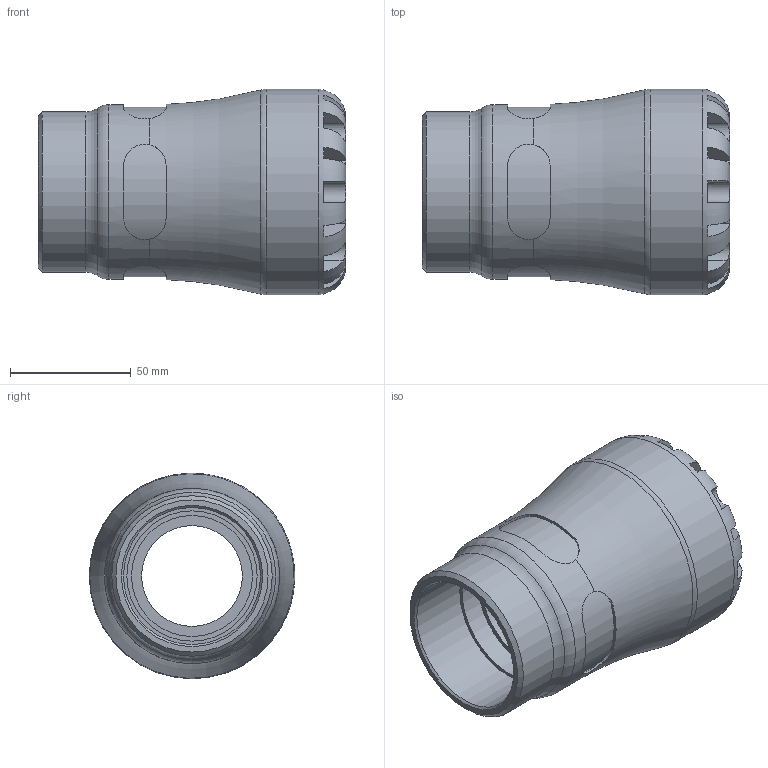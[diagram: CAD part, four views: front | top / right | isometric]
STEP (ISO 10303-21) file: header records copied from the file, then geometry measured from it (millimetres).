
FILE_DESCRIPTION(/* description */ ('PLASSON FEMALE INTEGRAL BRASS THREAD 50X2" SERIES 1'),/* implementation_level */ '2;1');
FILE_NAME(/* name */ 'C:\Dropbox\KIMPROJECTS-Inventor\99-16-3568-Processing\1073\107300050020_197300050020.ipt.stp',/* time_stamp */ '2017-01-22T11:35:48+02:00',/* author */ ('KIM'),/* organization */ (''),/* preprocessor_version */ 'ST-DEVELOPER v15.6',/* originating_system */ 'Autodesk Inventor 2015',/* authorisation */ '');
FILE_SCHEMA (('AUTOMOTIVE_DESIGN { 1 0 10303 214 3 1 1 }'));
Length unit declared in the file: millimetre
Products named in the file (1): 107300050020_197300050020
Bounding box: 127 x 85 x 85 mm (x, y, z)
Volume: 302814 mm3; surface area: 58573.6 mm2
Topology: 1 solids, 1 shells, 106 faces, 269 edges, 169 vertices
Faces by surface type: plane 62, cylinder 36, torus 5, cone 3
Full cylindrical faces by diameter (mm): 41.667 x1, 50 x2, 53.823 x1, 56.656 x1, 66.3 x1, 72.25 x1, 85 x1
Entity records: 3900 total; most frequent: CARTESIAN_POINT 1479, ORIENTED_EDGE 496, DIRECTION 486, EDGE_CURVE 248, AXIS2_PLACEMENT_3D 203, VERTEX_POINT 164, EDGE_LOOP 128, FACE_OUTER_BOUND 106
